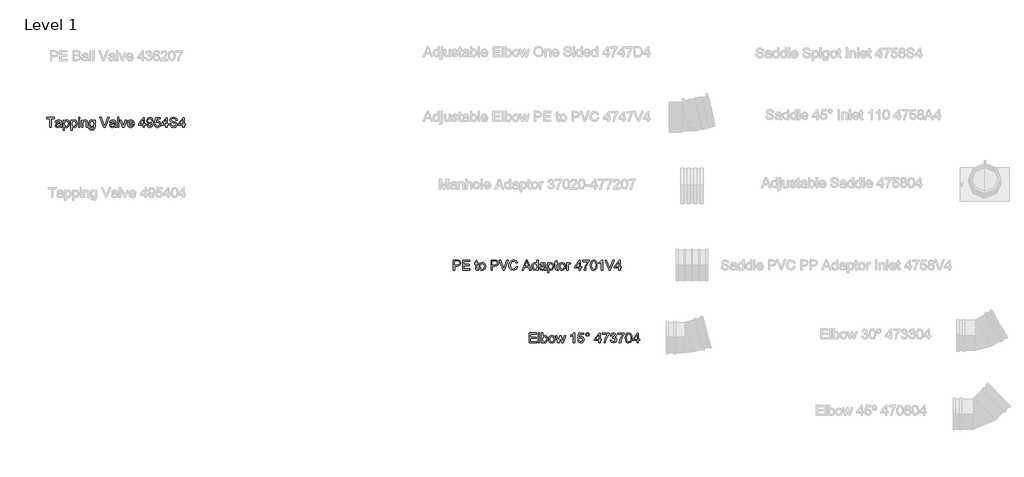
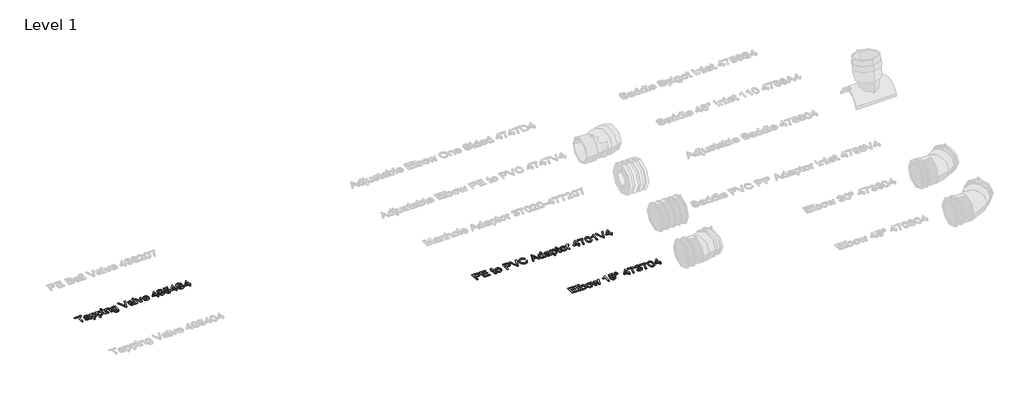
# One storey, part 34 of 38: 3 proxies.
"""IFC4 building model written with IfcOpenShell, lengths in millimetres."""

from ifc_helpers import new_model, si_unit, origin, origin_with_axes, place, context, project, spatial, polyline, outline, extrude, element, save

model = new_model("IFC4")

# Units and contexts
model_context = context("Model", 3, world=origin())
ifc_project = project(units=[si_unit("LENGTHUNIT", "METRE", prefix="MILLI")], contexts=[model_context])

# Site, building, storey
site = spatial("IfcSite", under=ifc_project)
building = spatial("IfcBuilding", under=site)
storey = spatial("IfcBuildingStorey", under=building, Name="Level 1", Elevation=0.0)

# Proxies
placement = place(None, origin())
element("IfcBuildingElementProxy", 1, Name="100 mm Arial", ObjectType="100 mm Arial", at=placement, inside=storey, context=model_context, shape_type="SweptSolid", body=[
    extrude(outline(polyline([(21597.0047402, 4357.3077873), (21597.0047402, 4409.000095), (21577.6201248, 4409.000095), (21577.6201248, 4416.3847104), (21623.7739709, 4416.3847104), (21623.7739709, 4409.000095), (21604.3893556, 4409.000095), (21604.3893556, 4357.3077873), (21597.0047402, 4357.3077873)])), origin_with_axes(), (0.0, 0.0, 1.0), 5.0),
    extrude(outline(polyline([(21658.850894, 4362.8462488), (21651.6898363, 4357.8414411), (21643.7787786, 4356.3847104), (21633.0552209, 4359.8895181), (21629.3124325, 4368.8462488), (21630.725894, 4374.687595), (21634.4398363, 4378.9279796), (21639.6105094, 4381.3510565), (21645.9999325, 4382.4616334), (21658.8076248, 4385.000095), (21658.850894, 4386.6443257), (21656.8172402, 4392.0962488), (21648.6537786, 4394.2308642), (21641.1826248, 4392.8101911), (21637.6201248, 4387.7693257), (21630.2355094, 4388.6924027), (21633.4302209, 4395.9039411), (21639.8629132, 4400.1299027), (21649.6057017, 4401.6154796), (21658.5552209, 4400.3029796), (21663.6105094, 4397.0073065), (21665.8749325, 4391.9952873), (21666.2355094, 4385.5337488), (21666.2355094, 4376.3462488), (21666.6105094, 4363.5169219), (21668.0816632, 4357.3077873), (21660.6970479, 4357.3077873), (21658.850894, 4362.8462488)]), holes=[polyline([(21658.850894, 4377.6154796), (21646.9374325, 4375.3510565), (21640.5840671, 4374.1539411), (21637.7066632, 4372.2068257), (21636.6970479, 4369.3654796), (21638.8965671, 4365.3702873), (21645.350894, 4363.7693257), (21652.8220479, 4365.5361527), (21657.6393556, 4369.812595), (21658.8076248, 4375.5241334), (21658.850894, 4377.6154796)])]), origin_with_axes(), (0.0, 0.0, 1.0), 5.0),
    extrude(outline(polyline([(21676.3893556, 4340.6924027), (21676.3893556, 4400.6924027), (21683.7739709, 4400.6924027), (21683.7739709, 4393.4520181), (21688.8797402, 4399.5746142), (21695.7739709, 4401.6154796), (21705.1345479, 4398.7597104), (21711.2499325, 4390.7116334), (21713.3124325, 4379.3318257), (21710.9831056, 4367.3678834), (21704.2186825, 4359.218845), (21694.8797402, 4356.3847104), (21688.4542594, 4358.281345), (21683.7739709, 4363.0770181), (21683.7739709, 4340.6924027), (21676.3893556, 4340.6924027)]), holes=[polyline([(21683.7739709, 4378.6539411), (21686.9686825, 4367.4039411), (21694.7210863, 4363.7693257), (21702.632144, 4367.5337488), (21705.9278171, 4379.2020181), (21702.7114709, 4390.4808642), (21695.0239709, 4394.2308642), (21687.1850286, 4390.2428834), (21683.7739709, 4378.6539411)])]), origin_with_axes(), (0.0, 0.0, 1.0), 5.0),
    extrude(outline(polyline([(21721.6201248, 4340.6924027), (21721.6201248, 4400.6924027), (21729.0047402, 4400.6924027), (21729.0047402, 4393.4520181), (21734.1105094, 4399.5746142), (21741.0047402, 4401.6154796), (21750.3653171, 4398.7597104), (21756.4807017, 4390.7116334), (21758.5432017, 4379.3318257), (21756.2138748, 4367.3678834), (21749.4494517, 4359.218845), (21740.1105094, 4356.3847104), (21733.6850286, 4358.281345), (21729.0047402, 4363.0770181), (21729.0047402, 4340.6924027), (21721.6201248, 4340.6924027)]), holes=[polyline([(21729.0047402, 4378.6539411), (21732.1994517, 4367.4039411), (21739.9518556, 4363.7693257), (21747.8629132, 4367.5337488), (21751.1585863, 4379.2020181), (21747.9422402, 4390.4808642), (21740.2547402, 4394.2308642), (21732.4157979, 4390.2428834), (21729.0047402, 4378.6539411)])]), origin_with_axes(), (0.0, 0.0, 1.0), 5.0),
    extrude(outline(polyline([(21766.850894, 4409.000095), (21766.850894, 4416.3847104), (21774.2355094, 4416.3847104), (21774.2355094, 4409.000095), (21766.850894, 4409.000095)])), origin_with_axes(), (0.0, 0.0, 1.0), 5.0),
    extrude(outline(polyline([(21766.850894, 4357.3077873), (21766.850894, 4400.6924027), (21774.2355094, 4400.6924027), (21774.2355094, 4357.3077873), (21766.850894, 4357.3077873)])), origin_with_axes(), (0.0, 0.0, 1.0), 5.0),
    extrude(outline(polyline([(21785.3124325, 4357.3077873), (21785.3124325, 4400.6924027), (21792.6970479, 4400.6924027), (21792.6970479, 4394.6347104), (21798.3436825, 4399.8702873), (21806.0528171, 4401.6154796), (21813.0263748, 4400.2092296), (21817.7859902, 4396.5169219), (21819.9999325, 4391.0866334), (21820.3893556, 4383.9472104), (21820.3893556, 4357.3077873), (21813.0047402, 4357.3077873), (21813.0047402, 4382.9520181), (21812.1537786, 4389.4856719), (21809.1465671, 4392.9399988), (21804.0768556, 4394.2308642), (21796.0648363, 4391.3318257), (21792.6970479, 4380.3270181), (21792.6970479, 4357.3077873), (21785.3124325, 4357.3077873)])), origin_with_axes(), (0.0, 0.0, 1.0), 5.0),
    extrude(outline(polyline([(21828.6970479, 4353.6154796), (21836.0816632, 4352.6924027), (21838.475894, 4348.7981719), (21845.6441632, 4347.1539411), (21853.2018556, 4349.0145181), (21856.8076248, 4354.2356719), (21857.3124325, 4362.8462488), (21845.7739709, 4357.3077873), (21838.1603892, 4358.9195661), (21832.4831056, 4363.7549027), (21827.7739709, 4379.2164411), (21829.8869517, 4390.6611527), (21836.0023363, 4398.7597104), (21845.413394, 4401.6154796), (21852.0011344, 4400.000095), (21857.3124325, 4395.1539411), (21857.3124325, 4400.6924027), (21864.6970479, 4400.6924027), (21864.6970479, 4363.2356719), (21862.6778171, 4348.8919219), (21856.2811825, 4342.2212488), (21845.4999325, 4339.7693257), (21833.2186825, 4343.2236527), (21828.6970479, 4353.6154796)]), holes=[polyline([(21835.1585863, 4379.7212488), (21838.3100286, 4368.2909604), (21846.2210863, 4364.6924027), (21854.1177209, 4368.2693257), (21857.3124325, 4379.5049027), (21854.0239709, 4390.5169219), (21846.1057017, 4394.2308642), (21838.3532979, 4390.5746142), (21835.1585863, 4379.7212488)])]), origin_with_axes(), (0.0, 0.0, 1.0), 5.0),
    extrude(outline(polyline([(21917.225894, 4357.3077873), (21893.7162786, 4416.3847104), (21901.6201248, 4416.3847104), (21917.3557017, 4373.8222104), (21920.5432017, 4364.2308642), (21923.6874325, 4373.8222104), (21939.4662786, 4416.3847104), (21947.3701248, 4416.3847104), (21924.8557017, 4357.3077873), (21917.225894, 4357.3077873)])), origin_with_axes(), (0.0, 0.0, 1.0), 5.0),
    extrude(outline(polyline([(21981.0047402, 4362.8462488), (21973.8436825, 4357.8414411), (21965.9326248, 4356.3847104), (21955.2090671, 4359.8895181), (21951.4662786, 4368.8462488), (21952.8797402, 4374.687595), (21956.5936825, 4378.9279796), (21961.7643556, 4381.3510565), (21968.1537786, 4382.4616334), (21980.9614709, 4385.000095), (21981.0047402, 4386.6443257), (21978.9710863, 4392.0962488), (21970.8076248, 4394.2308642), (21963.3364709, 4392.8101911), (21959.7739709, 4387.7693257), (21952.3893556, 4388.6924027), (21955.5840671, 4395.9039411), (21962.0167594, 4400.1299027), (21971.7595479, 4401.6154796), (21980.7090671, 4400.3029796), (21985.7643556, 4397.0073065), (21988.0287786, 4391.9952873), (21988.3893556, 4385.5337488), (21988.3893556, 4376.3462488), (21988.7643556, 4363.5169219), (21990.2355094, 4357.3077873), (21982.850894, 4357.3077873), (21981.0047402, 4362.8462488)]), holes=[polyline([(21981.0047402, 4377.6154796), (21969.0912786, 4375.3510565), (21962.7379132, 4374.1539411), (21959.8605094, 4372.2068257), (21958.850894, 4369.3654796), (21961.0504132, 4365.3702873), (21967.5047402, 4363.7693257), (21974.975894, 4365.5361527), (21979.7932017, 4369.812595), (21980.9614709, 4375.5241334), (21981.0047402, 4377.6154796)])]), origin_with_axes(), (0.0, 0.0, 1.0), 5.0),
    extrude(outline(polyline([(21998.5432017, 4357.3077873), (21998.5432017, 4416.3847104), (22005.9278171, 4416.3847104), (22005.9278171, 4357.3077873), (21998.5432017, 4357.3077873)])), origin_with_axes(), (0.0, 0.0, 1.0), 5.0),
    extrude(outline(polyline([(22027.6489709, 4357.3077873), (22012.3893556, 4400.6924027), (22020.2066632, 4400.6924027), (22029.4518556, 4374.7020181), (22032.2355094, 4365.9616334), (22034.9614709, 4374.2116334), (22044.2643556, 4400.6924027), (22052.0816632, 4400.6924027), (22037.0095479, 4357.3077873), (22027.6489709, 4357.3077873)])), origin_with_axes(), (0.0, 0.0, 1.0), 5.0),
    extrude(outline(polyline([(22088.9182017, 4370.2308642), (22096.1585863, 4369.3077873), (22089.3869517, 4359.7741334), (22076.7739709, 4356.3847104), (22068.1093075, 4357.8468498), (22061.4422402, 4362.2332681), (22057.1910382, 4369.2591094), (22055.7739709, 4378.6395181), (22057.2054613, 4388.3354315), (22061.4999325, 4395.5866334), (22068.0768556, 4400.1082681), (22076.3557017, 4401.6154796), (22084.3767354, 4400.1118738), (22090.7859902, 4395.6010565), (22094.9885142, 4388.3642777), (22096.3893556, 4378.6827873), (22096.3460863, 4376.6924027), (22063.1585863, 4376.6924027), (22067.4061825, 4367.1010565), (22076.9182017, 4363.7693257), (22084.1585863, 4365.312595), (22088.9182017, 4370.2308642)]), holes=[polyline([(22063.1585863, 4384.0770181), (22089.0047402, 4384.0770181), (22086.0480094, 4390.7693257), (22076.3268556, 4394.2308642), (22067.2331056, 4391.468845), (22063.1585863, 4384.0770181)])]), origin_with_axes(), (0.0, 0.0, 1.0), 5.0),
    extrude(outline(polyline([(22149.0047402, 4357.3077873), (22149.0047402, 4371.1539411), (22122.2355094, 4371.1539411), (22122.2355094, 4378.5385565), (22150.850894, 4415.4616334), (22156.3893556, 4415.4616334), (22156.3893556, 4378.5385565), (22163.7739709, 4378.5385565), (22163.7739709, 4371.1539411), (22156.3893556, 4371.1539411), (22156.3893556, 4357.3077873), (22149.0047402, 4357.3077873)]), holes=[polyline([(22149.0047402, 4378.5385565), (22149.0047402, 4401.3558642), (22131.3220479, 4378.5385565), (22149.0047402, 4378.5385565)])]), origin_with_axes(), (0.0, 0.0, 1.0), 5.0),
    extrude(outline(polyline([(22171.1585863, 4372.0770181), (22178.5432017, 4373.000095), (22181.8605094, 4365.9544219), (22188.1489709, 4363.7693257), (22194.1273363, 4365.1755757), (22198.1802209, 4368.9327873), (22200.5960863, 4375.3510565), (22201.663394, 4383.9183642), (22195.7138748, 4379.7645181), (22187.6153171, 4377.6154796), (22175.2763748, 4382.8654796), (22170.2355094, 4396.6972104), (22175.5215671, 4410.9760565), (22188.7691632, 4416.3847104), (22199.2907979, 4413.2981719), (22206.5311825, 4404.500095), (22209.0047402, 4387.9712488), (22206.538394, 4370.0361527), (22199.2042594, 4359.875095), (22187.8028171, 4356.3847104), (22176.4518556, 4360.5024988), (22171.1585863, 4372.0770181)]), holes=[polyline([(22201.6201248, 4396.8702873), (22198.4326248, 4405.7260565), (22189.9662786, 4409.000095), (22181.0816632, 4405.4736527), (22177.6201248, 4396.3366334), (22180.8941632, 4388.1515373), (22189.7643556, 4385.000095), (22198.2811825, 4388.1515373), (22201.6201248, 4396.8702873)])]), origin_with_axes(), (0.0, 0.0, 1.0), 5.0),
    extrude(outline(polyline([(22215.4662786, 4373.000095), (22222.850894, 4373.9231719), (22226.5720479, 4366.3149988), (22234.288394, 4363.7693257), (22243.5480094, 4367.3101911), (22246.850894, 4376.7068257), (22243.757144, 4385.4760565), (22234.4037786, 4388.6924027), (22227.9206056, 4387.4087488), (22223.7739709, 4384.0770181), (22216.3893556, 4385.000095), (22222.850894, 4415.4616334), (22251.4662786, 4415.4616334), (22251.4662786, 4408.0770181), (22228.8220479, 4408.0770181), (22225.663394, 4391.8077873), (22236.4662786, 4396.0770181), (22249.0936825, 4390.7837488), (22254.2355094, 4377.1683642), (22249.6057017, 4363.4664411), (22242.9566632, 4358.1551431), (22234.2595479, 4356.3847104), (22221.2282979, 4360.9351911), (22215.4662786, 4373.000095)])), origin_with_axes(), (0.0, 0.0, 1.0), 5.0),
    extrude(outline(polyline([(22284.6970479, 4357.3077873), (22284.6970479, 4371.1539411), (22257.9278171, 4371.1539411), (22257.9278171, 4378.5385565), (22286.5432017, 4415.4616334), (22292.0816632, 4415.4616334), (22292.0816632, 4378.5385565), (22299.4662786, 4378.5385565), (22299.4662786, 4371.1539411), (22292.0816632, 4371.1539411), (22292.0816632, 4357.3077873), (22284.6970479, 4357.3077873)]), holes=[polyline([(22284.6970479, 4378.5385565), (22284.6970479, 4401.3558642), (22267.0143556, 4378.5385565), (22284.6970479, 4378.5385565)])]), origin_with_axes(), (0.0, 0.0, 1.0), 5.0),
    extrude(outline(polyline([(22305.9278171, 4377.6154796), (22313.3124325, 4377.6154796), (22315.6922402, 4370.2236527), (22321.5047402, 4365.5505757), (22330.3605094, 4363.7693257), (22338.0768556, 4365.1178834), (22343.0600286, 4368.8246142), (22344.6970479, 4373.7789411), (22343.4710863, 4378.3871142), (22338.4518556, 4381.7404796), (22327.6994517, 4384.5601911), (22316.1249325, 4388.2020181), (22309.8436825, 4393.6972104), (22307.7739709, 4401.0385565), (22310.3340671, 4409.3967296), (22317.8124325, 4415.2957681), (22328.7595479, 4417.3077873), (22340.4422402, 4415.2020181), (22348.2307017, 4409.0145181), (22351.1585863, 4399.7693257), (22343.7739709, 4399.7693257), (22339.5912786, 4407.3558642), (22329.0480094, 4409.9231719), (22318.475894, 4407.3847104), (22315.1585863, 4401.2549027), (22317.5095479, 4396.1347104), (22329.5672402, 4392.0097104), (22342.6345479, 4388.3029796), (22349.7811825, 4382.3174027), (22352.0816632, 4373.9664411), (22349.4350286, 4365.1323065), (22341.819644, 4358.6851911), (22330.6489709, 4356.3847104), (22317.4590671, 4358.8654796), (22309.1153171, 4366.3366334), (22305.9278171, 4377.6154796)])), origin_with_axes(), (0.0, 0.0, 1.0), 5.0),
    extrude(outline(polyline([(22384.3893556, 4357.3077873), (22384.3893556, 4371.1539411), (22357.6201248, 4371.1539411), (22357.6201248, 4378.5385565), (22386.2355094, 4415.4616334), (22391.7739709, 4415.4616334), (22391.7739709, 4378.5385565), (22399.1585863, 4378.5385565), (22399.1585863, 4371.1539411), (22391.7739709, 4371.1539411), (22391.7739709, 4357.3077873), (22384.3893556, 4357.3077873)]), holes=[polyline([(22384.3893556, 4378.5385565), (22384.3893556, 4401.3558642), (22366.7066632, 4378.5385565), (22384.3893556, 4378.5385565)])]), origin_with_axes(), (0.0, 0.0, 1.0), 5.0),
])
element("IfcBuildingElementProxy", 2, Name="100 mm Arial", ObjectType="100 mm Arial", at=placement, inside=storey, context=model_context, shape_type="SweptSolid", body=[
    extrude(outline(polyline([(23985.5214343, 3512.3077873), (23985.5214343, 3571.3847104), (24007.4156651, 3571.3847104), (24016.2425882, 3570.8222104), (24023.4180689, 3568.0601911), (24028.0695112, 3562.3486527), (24029.8291266, 3554.2933642), (24025.0767228, 3541.5289411), (24018.4114584, 3537.6130757), (24007.9204728, 3536.3077873), (23992.9060497, 3536.3077873), (23992.9060497, 3512.3077873), (23985.5214343, 3512.3077873)]), holes=[polyline([(23992.9060497, 3543.6924027), (24008.3531651, 3543.6924027), (24019.2281651, 3546.4039411), (24022.4445112, 3554.0337488), (24020.5478766, 3560.1491334), (24015.5647036, 3563.4952873), (24008.1800882, 3564.000095), (23992.9060497, 3564.000095), (23992.9060497, 3543.6924027)])]), origin_with_axes(), (0.0, 0.0, 1.0), 5.0),
    extrude(outline(polyline([(24039.9829728, 3512.3077873), (24039.9829728, 3571.3847104), (24082.4445112, 3571.3847104), (24082.4445112, 3564.000095), (24047.3675882, 3564.000095), (24047.3675882, 3546.4616334), (24080.5983574, 3546.4616334), (24080.5983574, 3539.0770181), (24047.3675882, 3539.0770181), (24047.3675882, 3519.6924027), (24083.3675882, 3519.6924027), (24083.3675882, 3512.3077873), (24039.9829728, 3512.3077873)])), origin_with_axes(), (0.0, 0.0, 1.0), 5.0),
    extrude(outline(polyline([(24132.2906651, 3518.4664411), (24133.213742, 3512.0914411), (24127.6897036, 3511.3847104), (24121.5022036, 3512.6106719), (24118.4156651, 3515.8270181), (24117.5214343, 3524.2068257), (24117.5214343, 3548.3077873), (24111.9829728, 3548.3077873), (24111.9829728, 3555.6924027), (24117.5214343, 3555.6924027), (24117.5214343, 3566.2356719), (24124.9060497, 3570.5770181), (24124.9060497, 3555.6924027), (24132.2906651, 3555.6924027), (24132.2906651, 3548.3077873), (24124.9060497, 3548.3077873), (24124.9060497, 3524.4231719), (24125.2954728, 3520.6154796), (24126.557492, 3519.2669219), (24129.0743189, 3518.7693257), (24132.2906651, 3518.4664411)])), origin_with_axes(), (0.0, 0.0, 1.0), 5.0),
    extrude(outline(polyline([(24137.8291266, 3534.000095), (24139.4264824, 3544.4604315), (24144.2185497, 3551.812595), (24157.2281651, 3556.6154796), (24164.9859776, 3555.1533402), (24171.182492, 3550.7669219), (24175.2443911, 3543.8023786), (24176.5983574, 3534.6058642), (24174.2041266, 3521.4664411), (24167.2305689, 3514.031345), (24157.2281651, 3511.3847104), (24149.3766026, 3512.8414411), (24143.1872997, 3517.2116334), (24139.1686699, 3524.3222104), (24137.8291266, 3534.000095)]), holes=[polyline([(24145.213742, 3534.0145181), (24148.6320112, 3522.5698065), (24157.2281651, 3518.7693257), (24165.7954728, 3522.5914411), (24169.213742, 3534.2452873), (24165.7738382, 3545.4303834), (24157.2281651, 3549.2308642), (24148.6320112, 3545.4448065), (24145.213742, 3534.0145181)])]), origin_with_axes(), (0.0, 0.0, 1.0), 5.0),
    extrude(outline(polyline([(24208.9060497, 3512.3077873), (24208.9060497, 3571.3847104), (24230.8002805, 3571.3847104), (24239.6272036, 3570.8222104), (24246.8026843, 3568.0601911), (24251.4541266, 3562.3486527), (24253.213742, 3554.2933642), (24248.4613382, 3541.5289411), (24241.7960737, 3537.6130757), (24231.3050882, 3536.3077873), (24216.2906651, 3536.3077873), (24216.2906651, 3512.3077873), (24208.9060497, 3512.3077873)]), holes=[polyline([(24216.2906651, 3543.6924027), (24231.7377805, 3543.6924027), (24242.6127805, 3546.4039411), (24245.8291266, 3554.0337488), (24243.932492, 3560.1491334), (24238.9493189, 3563.4952873), (24231.5647036, 3564.000095), (24216.2906651, 3564.000095), (24216.2906651, 3543.6924027)])]), origin_with_axes(), (0.0, 0.0, 1.0), 5.0),
    extrude(outline(polyline([(24280.8195112, 3512.3077873), (24257.3098959, 3571.3847104), (24265.213742, 3571.3847104), (24280.9493189, 3528.8222104), (24284.1368189, 3519.2308642), (24287.2810497, 3528.8222104), (24303.0598959, 3571.3847104), (24310.963742, 3571.3847104), (24288.4493189, 3512.3077873), (24280.8195112, 3512.3077873)])), origin_with_axes(), (0.0, 0.0, 1.0), 5.0),
    extrude(outline(polyline([(24359.3675882, 3533.3077873), (24366.7522036, 3531.4039411), (24357.9973959, 3516.5121142), (24342.5358574, 3511.3847104), (24327.1680689, 3515.2645181), (24318.1536459, 3526.500095), (24315.0598959, 3542.2933642), (24318.557492, 3558.3462488), (24328.5022036, 3568.7524988), (24342.6945112, 3572.3077873), (24357.4853766, 3567.7068257), (24365.8291266, 3554.7549027), (24358.4445112, 3552.9952873), (24352.3868189, 3562.0746142), (24342.4060497, 3564.9231719), (24330.8531651, 3561.7645181), (24324.3267228, 3553.2837488), (24322.4445112, 3542.3077873), (24324.6728766, 3529.5866334), (24331.6103766, 3521.4592296), (24341.8002805, 3518.7693257), (24353.1007612, 3522.4327873), (24359.3675882, 3533.3077873)])), origin_with_axes(), (0.0, 0.0, 1.0), 5.0),
    extrude(outline(polyline([(24393.1031651, 3512.3077873), (24416.6848959, 3571.3847104), (24422.9733574, 3571.3847104), (24446.5550882, 3512.3077873), (24438.7522036, 3512.3077873), (24431.9877805, 3530.7693257), (24407.6560497, 3530.7693257), (24400.9060497, 3512.3077873), (24393.1031651, 3512.3077873)]), holes=[polyline([(24410.3675882, 3538.1539411), (24429.2906651, 3538.1539411), (24423.9685497, 3552.6779796), (24419.8291266, 3564.000095), (24416.151242, 3553.9472104), (24410.3675882, 3538.1539411)])]), origin_with_axes(), (0.0, 0.0, 1.0), 5.0),
    extrude(outline(polyline([(24480.2906651, 3512.3077873), (24480.2906651, 3519.2741334), (24475.4048478, 3513.3570661), (24468.651242, 3511.3847104), (24459.5070112, 3514.2404796), (24453.0454728, 3522.2092296), (24450.7522036, 3533.9568257), (24452.8651843, 3545.7116334), (24459.1969151, 3553.8029796), (24468.6223959, 3556.6154796), (24475.4300882, 3554.6034604), (24480.2906651, 3549.375095), (24480.2906651, 3571.3847104), (24487.6752805, 3571.3847104), (24487.6752805, 3512.3077873), (24480.2906651, 3512.3077873)]), holes=[polyline([(24458.1368189, 3533.9856719), (24461.4685497, 3522.5553834), (24469.3291266, 3518.7693257), (24477.0959536, 3522.3823065), (24480.2906651, 3533.4231719), (24477.0382612, 3545.4087488), (24469.026242, 3549.2308642), (24461.2522036, 3545.5601911), (24458.1368189, 3533.9856719)])]), origin_with_axes(), (0.0, 0.0, 1.0), 5.0),
    extrude(outline(polyline([(24526.4445112, 3517.8462488), (24519.2834536, 3512.8414411), (24511.3723959, 3511.3847104), (24500.6488382, 3514.8895181), (24496.9060497, 3523.8462488), (24498.3195112, 3529.687595), (24502.0334536, 3533.9279796), (24507.2041266, 3536.3510565), (24513.5935497, 3537.4616334), (24526.401242, 3540.000095), (24526.4445112, 3541.6443257), (24524.4108574, 3547.0962488), (24516.2473959, 3549.2308642), (24508.776242, 3547.8101911), (24505.213742, 3542.7693257), (24497.8291266, 3543.6924027), (24501.0238382, 3550.9039411), (24507.4565305, 3555.1299027), (24517.1993189, 3556.6154796), (24526.1488382, 3555.3029796), (24531.2041266, 3552.0073065), (24533.4685497, 3546.9952873), (24533.8291266, 3540.5337488), (24533.8291266, 3531.3462488), (24534.2041266, 3518.5169219), (24535.6752805, 3512.3077873), (24528.2906651, 3512.3077873), (24526.4445112, 3517.8462488)]), holes=[polyline([(24526.4445112, 3532.6154796), (24514.5310497, 3530.3510565), (24508.1776843, 3529.1539411), (24505.3002805, 3527.2068257), (24504.2906651, 3524.3654796), (24506.4901843, 3520.3702873), (24512.9445112, 3518.7693257), (24520.4156651, 3520.5361527), (24525.2329728, 3524.812595), (24526.401242, 3530.5241334), (24526.4445112, 3532.6154796)])]), origin_with_axes(), (0.0, 0.0, 1.0), 5.0),
    extrude(outline(polyline([(24543.9829728, 3495.6924027), (24543.9829728, 3555.6924027), (24551.3675882, 3555.6924027), (24551.3675882, 3548.4520181), (24556.4733574, 3554.5746142), (24563.3675882, 3556.6154796), (24572.7281651, 3553.7597104), (24578.8435497, 3545.7116334), (24580.9060497, 3534.3318257), (24578.5767228, 3522.3678834), (24571.8122997, 3514.218845), (24562.4733574, 3511.3847104), (24556.0478766, 3513.281345), (24551.3675882, 3518.0770181), (24551.3675882, 3495.6924027), (24543.9829728, 3495.6924027)]), holes=[polyline([(24551.3675882, 3533.6539411), (24554.5622997, 3522.4039411), (24562.3147036, 3518.7693257), (24570.2257612, 3522.5337488), (24573.5214343, 3534.2020181), (24570.3050882, 3545.4808642), (24562.6175882, 3549.2308642), (24554.7786459, 3545.2428834), (24551.3675882, 3533.6539411)])]), origin_with_axes(), (0.0, 0.0, 1.0), 5.0),
    extrude(outline(polyline([(24604.9060497, 3518.4664411), (24605.8291266, 3512.0914411), (24600.3050882, 3511.3847104), (24594.1175882, 3512.6106719), (24591.0310497, 3515.8270181), (24590.1368189, 3524.2068257), (24590.1368189, 3548.3077873), (24584.5983574, 3548.3077873), (24584.5983574, 3555.6924027), (24590.1368189, 3555.6924027), (24590.1368189, 3566.2356719), (24597.5214343, 3570.5770181), (24597.5214343, 3555.6924027), (24604.9060497, 3555.6924027), (24604.9060497, 3548.3077873), (24597.5214343, 3548.3077873), (24597.5214343, 3524.4231719), (24597.9108574, 3520.6154796), (24599.1728766, 3519.2669219), (24601.6897036, 3518.7693257), (24604.9060497, 3518.4664411)])), origin_with_axes(), (0.0, 0.0, 1.0), 5.0),
    extrude(outline(polyline([(24610.4445112, 3534.000095), (24612.041867, 3544.4604315), (24616.8339343, 3551.812595), (24629.8435497, 3556.6154796), (24637.6013622, 3555.1533402), (24643.7978766, 3550.7669219), (24647.8597757, 3543.8023786), (24649.213742, 3534.6058642), (24646.8195112, 3521.4664411), (24639.8459536, 3514.031345), (24629.8435497, 3511.3847104), (24621.9919872, 3512.8414411), (24615.8026843, 3517.2116334), (24611.7840545, 3524.3222104), (24610.4445112, 3534.000095)]), holes=[polyline([(24617.8291266, 3534.0145181), (24621.2473959, 3522.5698065), (24629.8435497, 3518.7693257), (24638.4108574, 3522.5914411), (24641.8291266, 3534.2452873), (24638.3892228, 3545.4303834), (24629.8435497, 3549.2308642), (24621.2473959, 3545.4448065), (24617.8291266, 3534.0145181)])]), origin_with_axes(), (0.0, 0.0, 1.0), 5.0),
    extrude(outline(polyline([(24657.5214343, 3512.3077873), (24657.5214343, 3555.6924027), (24663.9829728, 3555.6924027), (24663.9829728, 3549.2741334), (24668.5695112, 3555.187595), (24673.1848959, 3556.6154796), (24680.5983574, 3554.3366334), (24678.1320112, 3547.7164411), (24672.9397036, 3549.2308642), (24668.7642228, 3547.7741334), (24666.1031651, 3543.7356719), (24664.9060497, 3535.1106719), (24664.9060497, 3512.3077873), (24657.5214343, 3512.3077873)])), origin_with_axes(), (0.0, 0.0, 1.0), 5.0),
    extrude(outline(polyline([(24730.4445112, 3512.3077873), (24730.4445112, 3526.1539411), (24703.6752805, 3526.1539411), (24703.6752805, 3533.5385565), (24732.2906651, 3570.4616334), (24737.8291266, 3570.4616334), (24737.8291266, 3533.5385565), (24745.213742, 3533.5385565), (24745.213742, 3526.1539411), (24737.8291266, 3526.1539411), (24737.8291266, 3512.3077873), (24730.4445112, 3512.3077873)]), holes=[polyline([(24730.4445112, 3533.5385565), (24730.4445112, 3556.3558642), (24712.7618189, 3533.5385565), (24730.4445112, 3533.5385565)])]), origin_with_axes(), (0.0, 0.0, 1.0), 5.0),
    extrude(outline(polyline([(24751.6752805, 3563.0770181), (24751.6752805, 3570.4616334), (24790.4445112, 3570.4616334), (24790.4445112, 3564.4904796), (24779.4469151, 3548.6034604), (24771.0310497, 3528.3606719), (24768.2906651, 3512.3077873), (24760.9060497, 3512.3077873), (24763.8411459, 3528.9664411), (24771.8964343, 3547.7957681), (24783.0598959, 3563.0770181), (24751.6752805, 3563.0770181)])), origin_with_axes(), (0.0, 0.0, 1.0), 5.0),
    extrude(outline(polyline([(24796.9060497, 3541.3702873), (24799.0767228, 3558.3678834), (24805.5238382, 3568.1683642), (24816.2906651, 3571.3847104), (24824.9156651, 3569.4808642), (24830.8723959, 3563.9928834), (24834.3339343, 3555.2524988), (24835.6752805, 3541.3702873), (24833.526242, 3524.4448065), (24827.1007612, 3514.6226911), (24816.2906651, 3511.3847104), (24808.6175882, 3512.7909604), (24802.7906651, 3517.0097104), (24798.3772036, 3527.0012969), (24796.9060497, 3541.3702873)]), holes=[polyline([(24804.2906651, 3541.3847104), (24807.7522036, 3523.0457681), (24816.2906651, 3518.7693257), (24824.8291266, 3523.0601911), (24828.2906651, 3541.3847104), (24824.9445112, 3559.5145181), (24816.2041266, 3564.000095), (24807.8675882, 3560.0481719), (24804.2906651, 3541.3847104)])]), origin_with_axes(), (0.0, 0.0, 1.0), 5.0),
    extrude(outline(polyline([(24869.8291266, 3512.3077873), (24862.4445112, 3512.3077873), (24862.4445112, 3558.3462488), (24855.4493189, 3553.3630757), (24847.6752805, 3549.6347104), (24847.6752805, 3556.6154796), (24858.4997997, 3563.5241334), (24865.0695112, 3571.3847104), (24869.8291266, 3571.3847104), (24869.8291266, 3512.3077873)])), origin_with_axes(), (0.0, 0.0, 1.0), 5.0),
    extrude(outline(polyline([(24907.588742, 3512.3077873), (24884.0791266, 3571.3847104), (24891.9829728, 3571.3847104), (24907.7185497, 3528.8222104), (24910.9060497, 3519.2308642), (24914.0502805, 3528.8222104), (24929.8291266, 3571.3847104), (24937.7329728, 3571.3847104), (24915.2185497, 3512.3077873), (24907.588742, 3512.3077873)])), origin_with_axes(), (0.0, 0.0, 1.0), 5.0),
    extrude(outline(polyline([(24965.8291266, 3512.3077873), (24965.8291266, 3526.1539411), (24939.0598959, 3526.1539411), (24939.0598959, 3533.5385565), (24967.6752805, 3570.4616334), (24973.213742, 3570.4616334), (24973.213742, 3533.5385565), (24980.5983574, 3533.5385565), (24980.5983574, 3526.1539411), (24973.213742, 3526.1539411), (24973.213742, 3512.3077873), (24965.8291266, 3512.3077873)]), holes=[polyline([(24965.8291266, 3533.5385565), (24965.8291266, 3556.3558642), (24948.1464343, 3533.5385565), (24965.8291266, 3533.5385565)])]), origin_with_axes(), (0.0, 0.0, 1.0), 5.0),
])
element("IfcBuildingElementProxy", 3, Name="100 mm Arial", ObjectType="100 mm Arial", at=placement, inside=storey, context=model_context, shape_type="SweptSolid", body=[
    extrude(outline(polyline([(24434.831834, 3081.889228), (24434.831834, 3140.9661511), (24477.2933725, 3140.9661511), (24477.2933725, 3133.5815357), (24442.2164494, 3133.5815357), (24442.2164494, 3116.0430742), (24475.4472186, 3116.0430742), (24475.4472186, 3108.6584588), (24442.2164494, 3108.6584588), (24442.2164494, 3089.2738434), (24478.2164494, 3089.2738434), (24478.2164494, 3081.889228), (24434.831834, 3081.889228)])), origin_with_axes(), (0.0, 0.0, 1.0), 5.0),
    extrude(outline(polyline([(24488.3702955, 3081.889228), (24488.3702955, 3140.9661511), (24495.7549109, 3140.9661511), (24495.7549109, 3081.889228), (24488.3702955, 3081.889228)])), origin_with_axes(), (0.0, 0.0, 1.0), 5.0),
    extrude(outline(polyline([(24514.2164494, 3081.889228), (24506.831834, 3081.889228), (24506.831834, 3140.9661511), (24514.2164494, 3140.9661511), (24514.2164494, 3119.0574973), (24519.3871225, 3124.4120646), (24525.8126032, 3126.1969203), (24533.2116417, 3124.5887473), (24538.9520263, 3120.0671126), (24542.4784686, 3113.0358626), (24543.7549109, 3104.2305742), (24542.4333965, 3094.3724011), (24538.4688532, 3087.0382665), (24532.6509446, 3082.48418), (24525.769334, 3080.9661511), (24519.2032282, 3082.9240838), (24514.2164494, 3088.7978819), (24514.2164494, 3081.889228)]), holes=[polyline([(24514.2164494, 3103.8844203), (24516.2356801, 3093.5574973), (24525.1347186, 3088.3507665), (24533.0385648, 3092.187305), (24536.3702955, 3103.624805), (24533.175584, 3115.1055742), (24525.4520263, 3118.812305), (24517.5481801, 3114.9757665), (24514.2164494, 3103.8844203)])]), origin_with_axes(), (0.0, 0.0, 1.0), 5.0),
    extrude(outline(polyline([(24550.2164494, 3103.5815357), (24551.8138051, 3114.0418723), (24556.6058725, 3121.3940357), (24569.6154878, 3126.1969203), (24577.3733003, 3124.7347809), (24583.5698148, 3120.3483626), (24587.6317138, 3113.3838194), (24588.9856801, 3104.187305), (24586.5914494, 3091.0478819), (24579.6178917, 3083.6127857), (24569.6154878, 3080.9661511), (24561.7639253, 3082.4228819), (24555.5746225, 3086.7930742), (24551.5559926, 3093.9036511), (24550.2164494, 3103.5815357)]), holes=[polyline([(24557.6010648, 3103.5959588), (24561.019334, 3092.1512473), (24569.6154878, 3088.3507665), (24578.1827955, 3092.1728819), (24581.6010648, 3103.826728), (24578.1611609, 3115.0118242), (24569.6154878, 3118.812305), (24561.019334, 3115.0262473), (24557.6010648, 3103.5959588)])]), origin_with_axes(), (0.0, 0.0, 1.0), 5.0),
    extrude(outline(polyline([(24604.4904878, 3081.889228), (24591.2933725, 3125.2738434), (24598.9664494, 3125.2738434), (24606.4520263, 3099.9613434), (24608.6876032, 3090.9180742), (24610.519334, 3099.6296126), (24616.4760648, 3125.2738434), (24625.2741417, 3125.2738434), (24631.2020263, 3099.701728), (24632.831834, 3091.812305), (24635.1683725, 3100.1344203), (24642.6683725, 3125.2738434), (24650.3702955, 3125.2738434), (24637.0722186, 3081.889228), (24628.144334, 3081.889228), (24622.4760648, 3107.3315357), (24620.831834, 3115.264228), (24613.519334, 3081.889228), (24604.4904878, 3081.889228)])), origin_with_axes(), (0.0, 0.0, 1.0), 5.0),
    extrude(outline(polyline([(24704.3702955, 3081.889228), (24696.9856801, 3081.889228), (24696.9856801, 3127.9276896), (24689.9904878, 3122.9445165), (24682.2164494, 3119.2161511), (24682.2164494, 3126.1969203), (24693.0409686, 3133.1055742), (24699.6106801, 3140.9661511), (24704.3702955, 3140.9661511), (24704.3702955, 3081.889228)])), origin_with_axes(), (0.0, 0.0, 1.0), 5.0),
    extrude(outline(polyline([(24721.9087571, 3097.5815357), (24729.2933725, 3098.5046126), (24733.0145263, 3090.8964396), (24740.7308725, 3088.3507665), (24749.9904878, 3091.8916319), (24753.2933725, 3101.2882665), (24750.1996225, 3110.0574973), (24740.8462571, 3113.2738434), (24734.363084, 3111.9901896), (24730.2164494, 3108.6584588), (24722.831834, 3109.5815357), (24729.2933725, 3140.0430742), (24757.9087571, 3140.0430742), (24757.9087571, 3132.6584588), (24735.2645263, 3132.6584588), (24732.1058725, 3116.389228), (24742.9087571, 3120.6584588), (24755.5361609, 3115.3651896), (24760.6779878, 3101.749805), (24756.0481801, 3088.0478819), (24749.3991417, 3082.7365838), (24740.7020263, 3080.9661511), (24727.6707763, 3085.5166319), (24721.9087571, 3097.5815357)])), origin_with_axes(), (0.0, 0.0, 1.0), 5.0),
    extrude(outline(polyline([(24768.9856801, 3130.826728), (24772.238084, 3138.6584588), (24780.0481801, 3141.889228), (24787.9087571, 3138.6584588), (24791.1395263, 3130.826728), (24787.8871225, 3122.9877857), (24780.0481801, 3119.7353819), (24772.238084, 3122.9661511), (24768.9856801, 3130.826728)]), holes=[polyline([(24773.6010648, 3130.812305), (24775.4976994, 3126.2401896), (24780.0770263, 3124.3507665), (24784.6275071, 3126.2401896), (24786.5241417, 3130.812305), (24784.6275071, 3135.3844203), (24780.0770263, 3137.2738434), (24775.4976994, 3135.3844203), (24773.6010648, 3130.812305)])]), origin_with_axes(), (0.0, 0.0, 1.0), 5.0),
    extrude(outline(polyline([(24847.4472186, 3081.889228), (24847.4472186, 3095.7353819), (24820.6779878, 3095.7353819), (24820.6779878, 3103.1199973), (24849.2933725, 3140.0430742), (24854.831834, 3140.0430742), (24854.831834, 3103.1199973), (24862.2164494, 3103.1199973), (24862.2164494, 3095.7353819), (24854.831834, 3095.7353819), (24854.831834, 3081.889228), (24847.4472186, 3081.889228)]), holes=[polyline([(24847.4472186, 3103.1199973), (24847.4472186, 3125.937305), (24829.7645263, 3103.1199973), (24847.4472186, 3103.1199973)])]), origin_with_axes(), (0.0, 0.0, 1.0), 5.0),
    extrude(outline(polyline([(24868.6779878, 3132.6584588), (24868.6779878, 3140.0430742), (24907.4472186, 3140.0430742), (24907.4472186, 3134.0719203), (24896.4496225, 3118.1849011), (24888.0337571, 3097.9421126), (24885.2933725, 3081.889228), (24877.9087571, 3081.889228), (24880.8438532, 3098.5478819), (24888.8991417, 3117.3772088), (24900.0626032, 3132.6584588), (24868.6779878, 3132.6584588)])), origin_with_axes(), (0.0, 0.0, 1.0), 5.0),
    extrude(outline(polyline([(24913.9087571, 3097.5815357), (24921.2933725, 3098.5046126), (24925.3678917, 3090.7305742), (24932.9904878, 3088.3507665), (24941.9616417, 3091.624805), (24945.2933725, 3099.7305742), (24941.9904878, 3107.3675934), (24933.5962571, 3110.389228), (24928.4183725, 3109.5815357), (24929.2404878, 3116.9661511), (24938.8029878, 3118.999805), (24942.5241417, 3125.5190357), (24939.8270263, 3131.295478), (24932.8751032, 3133.5815357), (24925.8366417, 3131.2738434), (24922.2164494, 3124.3507665), (24914.831834, 3125.2738434), (24920.8751032, 3136.8555742), (24932.6154878, 3140.9661511), (24941.5217378, 3138.9397088), (24947.7525071, 3133.4012473), (24949.9087571, 3125.951728), (24947.8606801, 3119.1440357), (24941.8029878, 3114.2546126), (24949.8510648, 3109.2065357), (24952.6779878, 3099.6007665), (24947.0241417, 3086.389228), (24932.7308725, 3080.9661511), (24919.7789494, 3085.5959588), (24913.9087571, 3097.5815357)])), origin_with_axes(), (0.0, 0.0, 1.0), 5.0),
    extrude(outline(polyline([(24959.1395263, 3132.6584588), (24959.1395263, 3140.0430742), (24997.9087571, 3140.0430742), (24997.9087571, 3134.0719203), (24986.9111609, 3118.1849011), (24978.4952955, 3097.9421126), (24975.7549109, 3081.889228), (24968.3702955, 3081.889228), (24971.3053917, 3098.5478819), (24979.3606801, 3117.3772088), (24990.5241417, 3132.6584588), (24959.1395263, 3132.6584588)])), origin_with_axes(), (0.0, 0.0, 1.0), 5.0),
    extrude(outline(polyline([(25004.3702955, 3110.951728), (25006.5409686, 3127.9493242), (25012.988084, 3137.749805), (25023.7549109, 3140.9661511), (25032.3799109, 3139.062305), (25038.3366417, 3133.5743242), (25041.7981801, 3124.8339396), (25043.1395263, 3110.951728), (25040.9904878, 3094.0262473), (25034.5650071, 3084.2041319), (25023.7549109, 3080.9661511), (25016.081834, 3082.3724011), (25010.2549109, 3086.5911511), (25005.8414494, 3096.5827376), (25004.3702955, 3110.951728)]), holes=[polyline([(25011.7549109, 3110.9661511), (25015.2164494, 3092.6272088), (25023.7549109, 3088.3507665), (25032.2933725, 3092.6416319), (25035.7549109, 3110.9661511), (25032.4087571, 3129.0959588), (25023.6683725, 3133.5815357), (25015.331834, 3129.6296126), (25011.7549109, 3110.9661511)])]), origin_with_axes(), (0.0, 0.0, 1.0), 5.0),
    extrude(outline(polyline([(25073.6010648, 3081.889228), (25073.6010648, 3095.7353819), (25046.831834, 3095.7353819), (25046.831834, 3103.1199973), (25075.4472186, 3140.0430742), (25080.9856801, 3140.0430742), (25080.9856801, 3103.1199973), (25088.3702955, 3103.1199973), (25088.3702955, 3095.7353819), (25080.9856801, 3095.7353819), (25080.9856801, 3081.889228), (25073.6010648, 3081.889228)]), holes=[polyline([(25073.6010648, 3103.1199973), (25073.6010648, 3125.937305), (25055.9183725, 3103.1199973), (25073.6010648, 3103.1199973)])]), origin_with_axes(), (0.0, 0.0, 1.0), 5.0),
])

save(model, "model.ifc")
